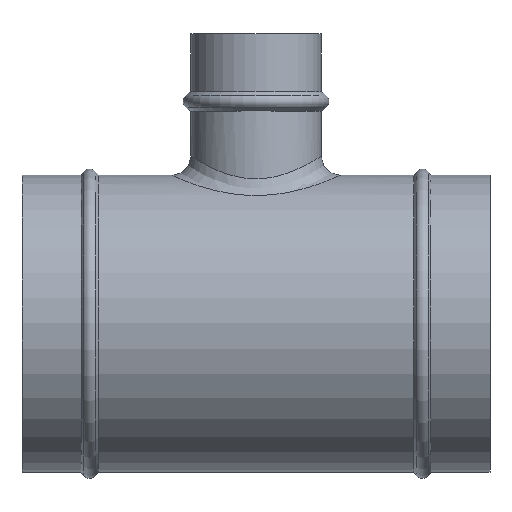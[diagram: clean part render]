
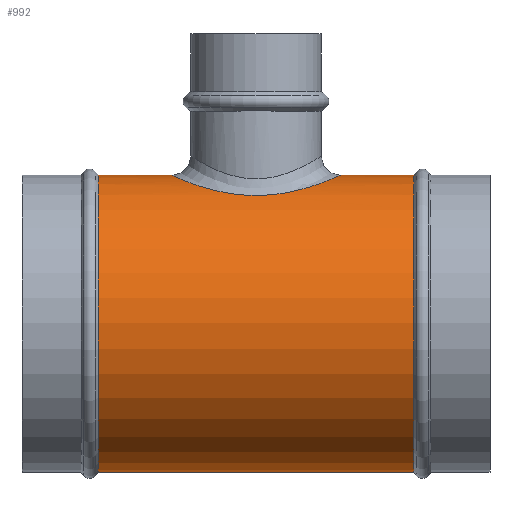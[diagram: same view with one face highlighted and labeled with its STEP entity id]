
A CAD part, top view. The second image highlights one B-rep face of the part: STEP entity #992.
In plain terms, the highlighted cylindrical face has radius 76.75 mm (diameter 153.5 mm), a partial arc.
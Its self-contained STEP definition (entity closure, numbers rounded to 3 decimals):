
#182=CARTESIAN_POINT('',(-43.75,76.75,0.));
#183=CARTESIAN_POINT('',(-43.75,76.75,1.331));
#184=CARTESIAN_POINT('',(-43.594,76.68,3.894));
#185=CARTESIAN_POINT('',(-43.002,76.418,7.397));
#186=CARTESIAN_POINT('',(-42.114,76.029,10.655));
#187=CARTESIAN_POINT('',(-40.96,75.533,13.728));
#188=CARTESIAN_POINT('',(-39.537,74.936,16.675));
#189=CARTESIAN_POINT('',(-37.832,74.242,19.531));
#190=CARTESIAN_POINT('',(-35.85,73.468,22.257));
#191=CARTESIAN_POINT('',(-33.85,72.721,24.579));
#192=CARTESIAN_POINT('',(-31.57,71.91,26.862));
#193=CARTESIAN_POINT('',(-28.791,70.987,29.217));
#194=CARTESIAN_POINT('',(-25.452,69.974,31.567));
#195=CARTESIAN_POINT('',(-21.43,68.9,33.842));
#196=CARTESIAN_POINT('',(-16.621,67.834,35.927));
#197=CARTESIAN_POINT('',(-10.647,66.86,37.699));
#198=CARTESIAN_POINT('',(-3.768,66.259,38.735));
#199=CARTESIAN_POINT('',(3.434,66.243,38.762));
#200=CARTESIAN_POINT('',(10.399,66.826,37.758));
#201=CARTESIAN_POINT('',(16.502,67.809,35.975));
#202=CARTESIAN_POINT('',(21.404,68.893,33.858));
#203=CARTESIAN_POINT('',(25.49,69.984,31.545));
#204=CARTESIAN_POINT('',(28.876,71.013,29.154));
#205=CARTESIAN_POINT('',(31.691,71.952,26.751));
#206=CARTESIAN_POINT('',(33.991,72.772,24.429));
#207=CARTESIAN_POINT('',(36.028,73.536,22.035));
#208=CARTESIAN_POINT('',(38.039,74.325,19.22));
#209=CARTESIAN_POINT('',(39.753,75.026,16.273));
#210=CARTESIAN_POINT('',(41.168,75.622,13.237));
#211=CARTESIAN_POINT('',(42.288,76.105,10.104));
#212=CARTESIAN_POINT('',(43.112,76.466,6.865));
#213=CARTESIAN_POINT('',(43.627,76.695,3.511));
#214=CARTESIAN_POINT('',(43.75,76.75,1.184));
#215=CARTESIAN_POINT('',(43.75,76.75,0.));
#220=CARTESIAN_POINT('',(81.534,0.,0.));
#221=DIRECTION('',(1.,0.,0.));
#222=DIRECTION('',(0.,1.,0.));
#223=AXIS2_PLACEMENT_3D('',#220,#221,#222);
#228=CARTESIAN_POINT('',(-81.534,0.,0.));
#229=DIRECTION('',(1.,0.,0.));
#230=DIRECTION('',(0.,1.,0.));
#231=AXIS2_PLACEMENT_3D('',#228,#229,#230);
#302=CARTESIAN_POINT('',(43.75,76.75,0.));
#335=CARTESIAN_POINT('',(-43.75,76.75,0.));
#340=DIRECTION('',(-1.,0.,0.));
#341=VECTOR('',#340,37.784);
#342=CARTESIAN_POINT('',(-43.75,76.75,0.));
#343=LINE('',#342,#341);
#355=DIRECTION('',(-1.,0.,0.));
#356=VECTOR('',#355,163.067);
#357=CARTESIAN_POINT('',(81.534,-76.75,0.));
#358=LINE('',#357,#356);
#370=DIRECTION('',(-1.,0.,0.));
#371=VECTOR('',#370,37.784);
#372=CARTESIAN_POINT('',(81.534,76.75,0.));
#373=LINE('',#372,#371);
#825=CARTESIAN_POINT('',(81.534,76.75,0.));
#826=CARTESIAN_POINT('',(81.534,-76.75,0.));
#827=VERTEX_POINT('',#825);
#828=VERTEX_POINT('',#826);
#829=CARTESIAN_POINT('',(-81.534,76.75,0.));
#830=CARTESIAN_POINT('',(-81.534,-76.75,0.));
#831=VERTEX_POINT('',#829);
#832=VERTEX_POINT('',#830);
#865=VERTEX_POINT('',#302);
#866=VERTEX_POINT('',#335);
#973=CARTESIAN_POINT('',(-133.1,0.,0.));
#974=DIRECTION('',(1.,0.,0.));
#975=DIRECTION('',(0.,-1.,0.));
#976=AXIS2_PLACEMENT_3D('',#973,#974,#975);
#977=CYLINDRICAL_SURFACE('',#976,76.75);
#979=ORIENTED_EDGE('',*,*,#978,.T.);
#981=ORIENTED_EDGE('',*,*,#980,.F.);
#983=ORIENTED_EDGE('',*,*,#982,.T.);
#985=ORIENTED_EDGE('',*,*,#984,.T.);
#987=ORIENTED_EDGE('',*,*,#986,.F.);
#989=ORIENTED_EDGE('',*,*,#988,.F.);
#990=EDGE_LOOP('',(#979,#981,#983,#985,#987,#989));
#991=FACE_OUTER_BOUND('',#990,.F.);
#216=B_SPLINE_CURVE_WITH_KNOTS('',3,(#182,#183,#184,#185,#186,#187,#188,#189,
#190,#191,#192,#193,#194,#195,#196,#197,#198,#199,#200,#201,#202,#203,#204,#205,
#206,#207,#208,#209,#210,#211,#212,#213,#214,#215),.UNSPECIFIED.,.F.,.F.,(4,1,1,
1,1,1,1,1,1,1,1,1,1,1,1,1,1,1,1,1,1,1,1,1,1,1,1,1,1,1,1,4),(0.,
0.032,0.065,0.097,0.129,
0.161,0.194,0.226,0.258,
0.29,0.323,0.355,0.387,
0.419,0.452,0.484,0.516,
0.548,0.581,0.613,0.645,
0.677,0.71,0.742,0.774,
0.806,0.839,0.871,0.903,
0.935,0.968,1.),.UNSPECIFIED.);
#224=CIRCLE('',#223,76.75);
#232=CIRCLE('',#231,76.75);
#978=EDGE_CURVE('',#866,#865,#216,.T.);
#980=EDGE_CURVE('',#827,#865,#373,.T.);
#982=EDGE_CURVE('',#827,#828,#224,.T.);
#984=EDGE_CURVE('',#828,#832,#358,.T.);
#986=EDGE_CURVE('',#831,#832,#232,.T.);
#988=EDGE_CURVE('',#866,#831,#343,.T.);
#992=ADVANCED_FACE('',(#991),#977,.T.);
